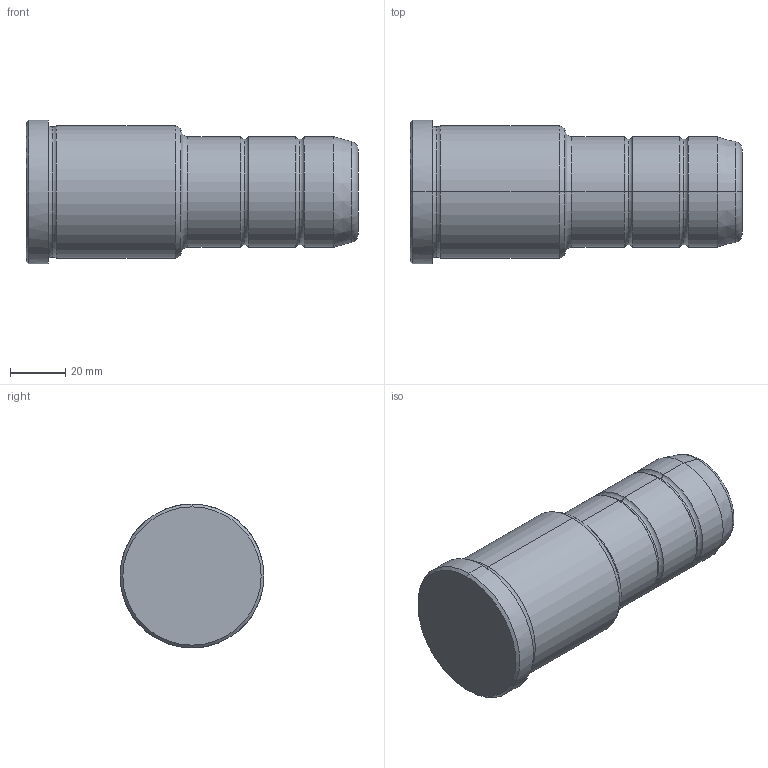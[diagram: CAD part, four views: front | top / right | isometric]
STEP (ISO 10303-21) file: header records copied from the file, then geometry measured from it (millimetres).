
FILE_DESCRIPTION(('CATIA V5 STEP Exchange'),'2;1');
FILE_NAME('C:\Users\Utente\Desktop\IO LAVORO\3D X SITO CF\X SITO\PLASTICA\351\351-40X56X120.stp','2021-10-28T18:33:57+00:00',('none'),('none'),'CATIA Version 5 Release 20 GA (IN-10)','CATIA V5 STEP AP203','none');
FILE_SCHEMA(('CONFIG_CONTROL_DESIGN'));
Length unit declared in the file: millimetre
Products named in the file (1): 351-40X56X120
Bounding box: 120 x 52 x 52 mm (x, y, z)
Volume: 182089.4 mm3; surface area: 20283 mm2
Topology: 1 solids, 1 shells, 36 faces, 102 edges, 70 vertices
Faces by surface type: torus 16, cylinder 10, cone 6, plane 4
Entity records: 1292 total; most frequent: CARTESIAN_POINT 321, ORIENTED_EDGE 204, DIRECTION 166, AXIS2_PLACEMENT_3D 115, EDGE_CURVE 102, CIRCLE 78, VERTEX_POINT 70, EDGE_LOOP 38
